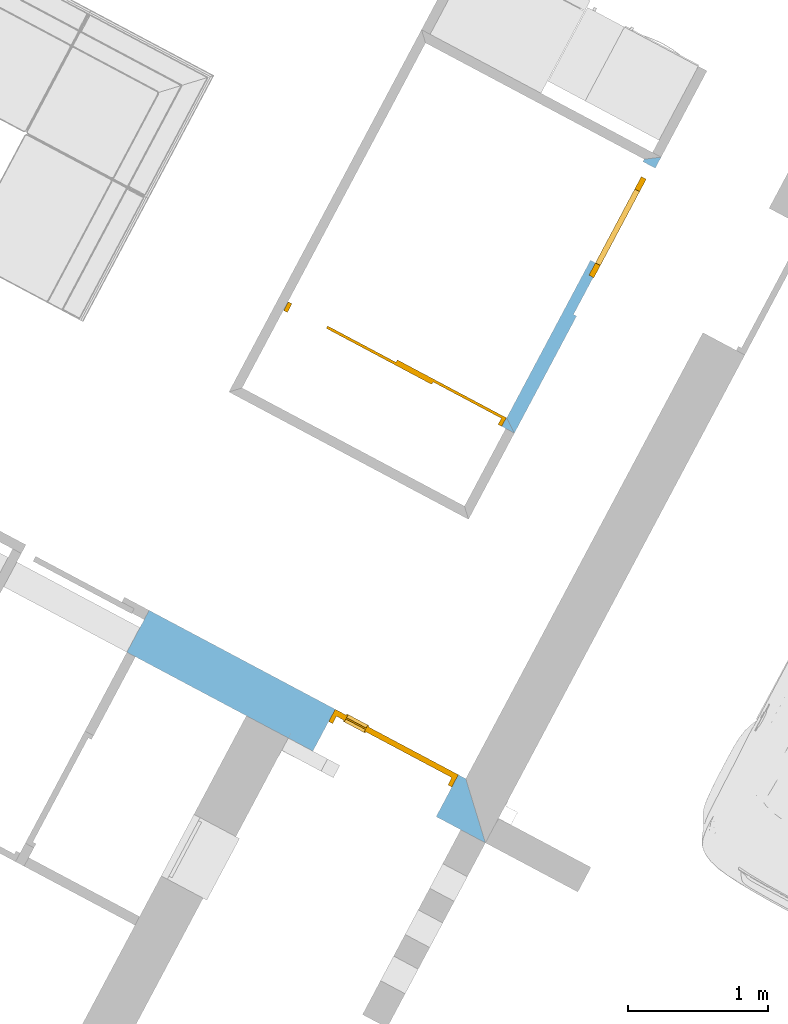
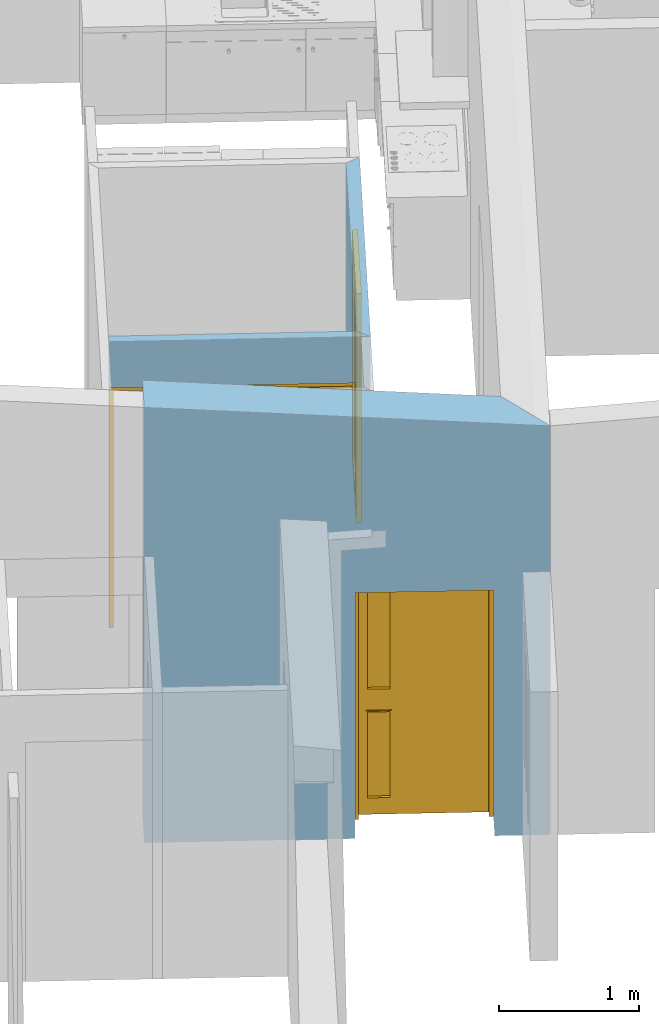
# One storey, part 9 of 27: 3 doors, 3 openings, plus 3 elements that do not belong to this part.
"""IFC2X3 building model written with IfcOpenShell, lengths in metres."""

from ifc_helpers import new_model, entity, si_unit, converted_unit, derived_unit, money_unit, direction, frame, origin_with_axes, origin_2d_with_axis, place, context, subcontext, project, spatial, polyline, rectangle, outline, extrude, clip, bounded_halfspace, open_shell, faceted_brep, surface_model, material, layer, layer_set, layer_usage, type_object, element, fill, save


model = new_model("IFC2X3")

# Units and contexts
model_context = context("Model", 3, precision=1e-05, world=origin_with_axes(), true_north=direction((0.0, 1.0)))
body_context = subcontext(model_context, "Body", "Model", "MODEL_VIEW")
ifc_project = project(units=[si_unit("LENGTHUNIT", "METRE"), si_unit("AREAUNIT", "SQUARE_METRE"), si_unit("VOLUMEUNIT", "CUBIC_METRE"), converted_unit("PLANEANGLEUNIT", "DEGREE", entity("IfcPlaneAngleMeasure", 0.0174532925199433), si_unit("PLANEANGLEUNIT", "RADIAN"), dimensions=[0, 0, 0, 0, 0, 0, 0]), money_unit("CHF"), converted_unit("TIMEUNIT", "Year", entity("IfcTimeMeasure", 31557600.0), si_unit("TIMEUNIT", "SECOND"), dimensions=[0, 0, 1, 0, 0, 0, 0]), si_unit("MASSUNIT", "GRAM", prefix="KILO"), si_unit("THERMODYNAMICTEMPERATUREUNIT", "DEGREE_CELSIUS"), si_unit("LUMINOUSINTENSITYUNIT", "LUMEN"), si_unit("ENERGYUNIT", "JOULE", prefix="MEGA"), derived_unit("THERMALCONDUCTANCEUNIT", [(si_unit("POWERUNIT", "WATT"), 1), (si_unit("LENGTHUNIT", "METRE"), -1), (si_unit("THERMODYNAMICTEMPERATUREUNIT", "KELVIN"), -1)]), derived_unit("SPECIFICHEATCAPACITYUNIT", [(si_unit("ENERGYUNIT", "JOULE"), 1), (si_unit("MASSUNIT", "GRAM", prefix="KILO"), -1), (si_unit("THERMODYNAMICTEMPERATUREUNIT", "KELVIN"), -1)]), derived_unit("MASSDENSITYUNIT", [(si_unit("MASSUNIT", "GRAM", prefix="KILO"), 1), (si_unit("VOLUMEUNIT", "CUBIC_METRE"), -1)])], contexts=[model_context])

# Site, building, storey
site_placement = place(None, frame((0.0, 0.0, 0.0), z_axis=(0.0, 0.0, 1.0), x_axis=(-0.4694715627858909, -0.8829475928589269, 0.0)))
site = spatial("IfcSite", under=ifc_project, at=site_placement, Name="Site", CompositionType="ELEMENT")
building_placement = place(site_placement, origin_with_axes())
building = spatial("IfcBuilding", under=site, at=building_placement, Name="Bâtiment", CompositionType="ELEMENT")
storey_placement = place(building_placement, origin_with_axes())
storey = spatial("IfcBuildingStorey", under=building, at=storey_placement, Name="RDC", CompositionType="ELEMENT", Elevation=0.0)

# Wall, opening, door
ifc_material_1 = material(Name="Maçonnerie 290464332")
ifc_layer_1 = layer(ifc_material_1, 0.2, ventilated="UNKNOWN")
ifc_material_2 = material(Name="Isolation 272048125")
ifc_layer_2 = layer(ifc_material_2, 0.14, ventilated="UNKNOWN")
ifc_layer_set_1 = layer_set([ifc_layer_1, ifc_layer_2], Name="MUR EXT 34 0024849982")
ifc_layer_usage_1 = layer_usage(ifc_layer_set_1, "AXIS2", "POSITIVE", 0.0)
wall_type_1 = type_object("IfcWallType", Name="MUR EXT 34 0024849982 340", PredefinedType="NOTDEFINED")
wall_1_placement = place(storey_placement, frame((143.5295710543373, -831.60459910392, 0.0), z_axis=(0.0, 0.0, 1.0), x_axis=(0.0, 1.0, 0.0)))
wall_1 = element("IfcWallStandardCase", 1, at=wall_1_placement, inside=storey, type_object=wall_type_1, material=ifc_layer_usage_1, Name="Mur-390", context=body_context, shape_type="Clipping", body=[
    clip(extrude(outline(polyline([(0.0, 0.0), (2.910000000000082, 0.0), (2.57000000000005, 0.3400000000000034), (0.0, 0.3400000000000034), (0.0, 0.0)])), origin_with_axes(), (0.0, 0.0, 1.0), 5.0), bounded_halfspace(frame((0.3024483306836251, 0.0, 3.780604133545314), z_axis=(-0.07974522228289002, 0.0, -0.9968152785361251), x_axis=(0.0, 1.0, 0.0)), True, origin_with_axes(), polyline([(-6.690009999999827, -0.01), (2.910000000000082, -0.01), (2.910000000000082, 0.3500000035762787), (-6.690009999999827, 0.3500000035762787), (-6.690009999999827, -0.01)]))),
])
opening_1_placement = place(wall_1_placement, frame((2.009999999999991, 0.0, 0.0), z_axis=(0.0, 0.0, 1.0), x_axis=(1.0, 0.0, 0.0)))
opening_1 = element("IfcOpeningElement", 2, at=opening_1_placement, cuts=wall_1, Name="porte 75", context=body_context, shape_type="SweptSolid", body=[
    extrude(rectangle(XDim=1.0, YDim=2.15, at=origin_2d_with_axis()), frame((0.0, -0.3400000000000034, 1.075), z_axis=(0.0, 1.0, 0.0), x_axis=(1.0, 0.0, 0.0)), (0.0, 0.0, 1.0), 1.02),
])
door_style_1 = type_object("IfcDoorStyle", Name="P_métallique 10", ConstructionType="NOTDEFINED", OperationType="SINGLE_SWING_RIGHT", ParameterTakesPrecedence=False, Sizeable=False)
door_1_placement = place(opening_1_placement, frame((-0.5, 0.0, 0.0), z_axis=(0.0, 0.0, 1.0), x_axis=(1.0, 0.0, 0.0)))
door_1 = element("IfcDoor", 3, at=door_1_placement, inside=storey, type_object=door_style_1, Name="porte 75", OverallHeight=2.15, OverallWidth=1.0, context=body_context, shape_type="Brep", body=[
    faceted_brep([(0.03200000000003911, 0.3000000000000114, 0.0), (0.03200000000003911, 0.3000000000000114, 2.118), (0.03200000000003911, 0.2400000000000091, 2.118), (0.03200000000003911, 0.2400000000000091, 0.0), (0.01999999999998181, 0.3000000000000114, 2.118), (0.01999999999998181, 0.3000000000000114, 0.0), (0.01999999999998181, 0.3400000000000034, 2.118), (0.0, 0.3400000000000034, 2.118), (0.0, 0.2400000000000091, 2.118), (0.0, 0.2400000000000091, 0.0), (0.0, 0.3400000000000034, 0.0), (0.01999999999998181, 0.3400000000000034, 0.0)], [[[0, 1, 2, 3]], [[4, 1, 0, 5]], [[4, 6, 7, 8, 2, 1]], [[2, 8, 9, 3]], [[5, 0, 3, 9, 10, 11]], [[6, 4, 5, 11]], [[6, 11, 10, 7]], [[10, 9, 8, 7]]]),
    faceted_brep([(0.9800000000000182, 0.3000000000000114, 2.118), (0.9679999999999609, 0.3000000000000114, 2.118), (0.9679999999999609, 0.2400000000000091, 2.118), (1.0, 0.2400000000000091, 2.118), (1.0, 0.3400000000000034, 2.118), (0.9800000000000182, 0.3400000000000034, 2.118), (0.9800000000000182, 0.3000000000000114, 0.0), (0.9679999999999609, 0.3000000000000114, 0.0), (0.9679999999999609, 0.2400000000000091, 0.0), (1.0, 0.2400000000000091, 0.0), (1.0, 0.3400000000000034, 0.0), (0.9800000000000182, 0.3400000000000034, 0.0)], [[[0, 1, 2, 3, 4, 5]], [[1, 0, 6, 7]], [[1, 7, 8, 2]], [[3, 2, 8, 9]], [[4, 3, 9, 10]], [[11, 5, 4, 10]], [[0, 5, 11, 6]], [[6, 11, 10, 9, 8, 7]]]),
    faceted_brep([(0.01999999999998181, 0.3400000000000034, 2.13), (0.01999999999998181, 0.3400000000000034, 2.118), (0.0, 0.3400000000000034, 2.118), (0.0, 0.3400000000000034, 2.15), (1.0, 0.3400000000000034, 2.15), (1.0, 0.3400000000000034, 2.118), (0.9800000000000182, 0.3400000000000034, 2.118), (0.9800000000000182, 0.3400000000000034, 2.13), (0.01999999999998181, 0.3000000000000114, 2.13), (0.01999999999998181, 0.3000000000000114, 2.118), (0.03200000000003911, 0.3000000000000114, 2.118), (0.03200000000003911, 0.2400000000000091, 2.118), (0.0, 0.2400000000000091, 2.118), (0.0, 0.2400000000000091, 2.15), (1.0, 0.2400000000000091, 2.15), (1.0, 0.2400000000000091, 2.118), (0.9800000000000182, 0.3000000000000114, 2.118), (0.9679999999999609, 0.2400000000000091, 2.118), (0.9679999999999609, 0.3000000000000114, 2.118), (0.9800000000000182, 0.3000000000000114, 2.13)], [[[0, 1, 2, 3, 4, 5, 6, 7]], [[1, 0, 8, 9]], [[9, 10, 11, 12, 2, 1]], [[2, 12, 13, 3]], [[3, 13, 14, 4]], [[4, 14, 15, 5]], [[16, 6, 5, 15, 17, 18]], [[7, 6, 16, 19]], [[0, 7, 19, 8]], [[16, 18, 10, 9, 8, 19]], [[10, 18, 17, 11]], [[17, 15, 14, 13, 12, 11]]]),
    faceted_brep([(0.01999999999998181, 0.3400000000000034, 0.0), (0.9800000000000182, 0.3400000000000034, 0.0), (0.9800000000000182, 0.3000000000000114, 0.0), (0.01999999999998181, 0.3000000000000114, 0.0), (0.01999999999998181, 0.3400000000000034, 2.13), (0.9800000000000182, 0.3400000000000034, 2.13), (0.1000000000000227, 0.3400000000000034, 1.1), (0.2599999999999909, 0.3400000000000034, 1.1), (0.2599999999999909, 0.3400000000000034, 2.02), (0.1000000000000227, 0.3400000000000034, 2.02), (0.1000000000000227, 0.3400000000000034, 0.15), (0.2599999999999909, 0.3400000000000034, 0.15), (0.2599999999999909, 0.3400000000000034, 0.9), (0.1000000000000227, 0.3400000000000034, 0.9), (0.9800000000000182, 0.3000000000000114, 2.13), (0.01999999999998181, 0.3000000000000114, 2.13), (0.1000000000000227, 0.3000000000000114, 1.1), (0.1000000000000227, 0.3000000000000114, 2.02), (0.2599999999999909, 0.3000000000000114, 2.02), (0.2599999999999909, 0.3000000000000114, 1.1), (0.1000000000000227, 0.3000000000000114, 0.15), (0.1000000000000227, 0.3000000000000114, 0.9), (0.2599999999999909, 0.3000000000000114, 0.9), (0.2599999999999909, 0.3000000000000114, 0.15)], [[[0, 1, 2, 3]], [[0, 4, 5, 1], [6, 7, 8, 9], [10, 11, 12, 13]], [[1, 5, 14, 2]], [[3, 2, 14, 15], [16, 17, 18, 19], [20, 21, 22, 23]], [[4, 0, 3, 15]], [[5, 4, 15, 14]], [[7, 6, 16, 19]], [[8, 7, 19, 18]], [[9, 8, 18, 17]], [[6, 9, 17, 16]], [[11, 10, 20, 23]], [[12, 11, 23, 22]], [[13, 12, 22, 21]], [[10, 13, 21, 20]]]),
    faceted_brep([(0.1000000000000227, 0.3250000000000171, 1.1), (0.2599999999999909, 0.3250000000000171, 1.1), (0.2599999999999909, 0.313999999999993, 1.1), (0.1000000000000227, 0.313999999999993, 1.1), (0.1000000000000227, 0.3250000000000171, 2.02), (0.2599999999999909, 0.3250000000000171, 2.02), (0.2599999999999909, 0.313999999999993, 2.02), (0.1000000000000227, 0.313999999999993, 2.02)], [[[0, 1, 2, 3]], [[0, 4, 5, 1]], [[1, 5, 6, 2]], [[3, 2, 6, 7]], [[4, 0, 3, 7]], [[5, 4, 7, 6]]]),
    faceted_brep([(0.1000000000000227, 0.3250000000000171, 0.15), (0.2599999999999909, 0.3250000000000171, 0.15), (0.2599999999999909, 0.313999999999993, 0.15), (0.1000000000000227, 0.313999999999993, 0.15), (0.1000000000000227, 0.3250000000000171, 0.9), (0.2599999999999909, 0.3250000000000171, 0.9), (0.2599999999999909, 0.313999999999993, 0.9), (0.1000000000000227, 0.313999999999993, 0.9)], [[[0, 1, 2, 3]], [[0, 4, 5, 1]], [[1, 5, 6, 2]], [[3, 2, 6, 7]], [[4, 0, 3, 7]], [[5, 4, 7, 6]]]),
    faceted_brep([(0.09000000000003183, 0.3499999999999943, 1.09), (0.2699999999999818, 0.3499999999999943, 1.09), (0.2699999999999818, 0.3400000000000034, 1.09), (0.09000000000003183, 0.3400000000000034, 1.09), (0.09000000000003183, 0.3499999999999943, 2.03), (0.2699999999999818, 0.3499999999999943, 2.03), (0.1000000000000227, 0.3499999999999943, 1.1), (0.2599999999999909, 0.3499999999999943, 1.1), (0.2599999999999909, 0.3499999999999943, 2.02), (0.1000000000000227, 0.3499999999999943, 2.02), (0.2699999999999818, 0.3400000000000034, 2.03), (0.09000000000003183, 0.3400000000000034, 2.03), (0.1000000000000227, 0.3400000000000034, 1.1), (0.1000000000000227, 0.3400000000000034, 2.02), (0.2599999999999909, 0.3400000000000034, 2.02), (0.2599999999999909, 0.3400000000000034, 1.1)], [[[0, 1, 2, 3]], [[0, 4, 5, 1], [6, 7, 8, 9]], [[1, 5, 10, 2]], [[3, 2, 10, 11], [12, 13, 14, 15]], [[4, 0, 3, 11]], [[5, 4, 11, 10]], [[7, 6, 12, 15]], [[8, 7, 15, 14]], [[9, 8, 14, 13]], [[6, 9, 13, 12]]]),
    faceted_brep([(0.09000000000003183, 0.3499999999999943, 0.14), (0.2699999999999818, 0.3499999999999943, 0.14), (0.2699999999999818, 0.3400000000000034, 0.14), (0.09000000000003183, 0.3400000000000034, 0.14), (0.09000000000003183, 0.3499999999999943, 0.91), (0.2699999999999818, 0.3499999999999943, 0.91), (0.1000000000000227, 0.3499999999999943, 0.15), (0.2599999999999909, 0.3499999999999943, 0.15), (0.2599999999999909, 0.3499999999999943, 0.9), (0.1000000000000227, 0.3499999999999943, 0.9), (0.2699999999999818, 0.3400000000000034, 0.91), (0.09000000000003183, 0.3400000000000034, 0.91), (0.1000000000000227, 0.3400000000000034, 0.15), (0.1000000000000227, 0.3400000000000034, 0.9), (0.2599999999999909, 0.3400000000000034, 0.9), (0.2599999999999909, 0.3400000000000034, 0.15)], [[[0, 1, 2, 3]], [[0, 4, 5, 1], [6, 7, 8, 9]], [[1, 5, 10, 2]], [[3, 2, 10, 11], [12, 13, 14, 15]], [[4, 0, 3, 11]], [[5, 4, 11, 10]], [[7, 6, 12, 15]], [[8, 7, 15, 14]], [[9, 8, 14, 13]], [[6, 9, 13, 12]]]),
    faceted_brep([(0.09000000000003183, 0.3000000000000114, 1.09), (0.2699999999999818, 0.3000000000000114, 1.09), (0.2699999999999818, 0.289999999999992, 1.09), (0.09000000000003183, 0.289999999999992, 1.09), (0.09000000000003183, 0.3000000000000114, 2.03), (0.2699999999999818, 0.3000000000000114, 2.03), (0.1000000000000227, 0.3000000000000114, 1.1), (0.2599999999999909, 0.3000000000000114, 1.1), (0.2599999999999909, 0.3000000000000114, 2.02), (0.1000000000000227, 0.3000000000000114, 2.02), (0.2699999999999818, 0.289999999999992, 2.03), (0.09000000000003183, 0.289999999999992, 2.03), (0.1000000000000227, 0.289999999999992, 1.1), (0.1000000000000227, 0.289999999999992, 2.02), (0.2599999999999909, 0.289999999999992, 2.02), (0.2599999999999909, 0.289999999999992, 1.1)], [[[0, 1, 2, 3]], [[0, 4, 5, 1], [6, 7, 8, 9]], [[1, 5, 10, 2]], [[3, 2, 10, 11], [12, 13, 14, 15]], [[4, 0, 3, 11]], [[5, 4, 11, 10]], [[7, 6, 12, 15]], [[8, 7, 15, 14]], [[9, 8, 14, 13]], [[6, 9, 13, 12]]]),
    faceted_brep([(0.09000000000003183, 0.3000000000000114, 0.14), (0.2699999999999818, 0.3000000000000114, 0.14), (0.2699999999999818, 0.289999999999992, 0.14), (0.09000000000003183, 0.289999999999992, 0.14), (0.09000000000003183, 0.3000000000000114, 0.91), (0.2699999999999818, 0.3000000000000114, 0.91), (0.1000000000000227, 0.3000000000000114, 0.15), (0.2599999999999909, 0.3000000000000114, 0.15), (0.2599999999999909, 0.3000000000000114, 0.9), (0.1000000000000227, 0.3000000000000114, 0.9), (0.2699999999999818, 0.289999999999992, 0.91), (0.09000000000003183, 0.289999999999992, 0.91), (0.1000000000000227, 0.289999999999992, 0.15), (0.1000000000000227, 0.289999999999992, 0.9), (0.2599999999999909, 0.289999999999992, 0.9), (0.2599999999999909, 0.289999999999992, 0.15)], [[[0, 1, 2, 3]], [[0, 4, 5, 1], [6, 7, 8, 9]], [[1, 5, 10, 2]], [[3, 2, 10, 11], [12, 13, 14, 15]], [[4, 0, 3, 11]], [[5, 4, 11, 10]], [[7, 6, 12, 15]], [[8, 7, 15, 14]], [[9, 8, 14, 13]], [[6, 9, 13, 12]]]),
])
fill(opening_1, door_1)

ifc_material_3 = material(Name="Isolation 269295175")
ifc_layer_3 = layer(ifc_material_3, 0.1, ventilated="UNKNOWN")
ifc_layer_set_2 = layer_set([ifc_layer_3], Name="CLOISON 10")
ifc_layer_usage_2 = layer_usage(ifc_layer_set_2, "AXIS2", "POSITIVE", 0.0)
wall_type_2 = type_object("IfcWallType", Name="CLOISON 10 100", PredefinedType="NOTDEFINED")
wall_2_placement = place(storey_placement, frame((140.8395710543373, -829.8895991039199, 0.0), z_axis=(0.0, 0.0, 1.0), x_axis=(-1.0, 0.0, 0.0)))
wall_2 = element("IfcWallStandardCase", 4, at=wall_2_placement, inside=storey, type_object=wall_type_2, material=ifc_layer_usage_2, Name="Mur-396", context=body_context, shape_type="SweptSolid", body=[
    extrude(outline(polyline([(0.0, 0.0), (2.239999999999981, 0.0), (2.169999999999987, 0.1000000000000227), (0.06999999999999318, 0.1000000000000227), (0.0, 0.0)])), origin_with_axes(), (0.0, 0.0, 1.0), 2.5),
])
opening_2_placement = place(wall_2_placement, frame((1.74990555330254, 0.0, 0.0), z_axis=(0.0, 0.0, 1.0), x_axis=(1.0, 0.0, 0.0)))
opening_2 = element("IfcOpeningElement", 5, at=opening_2_placement, cuts=wall_2, Name="porte 76", context=body_context, shape_type="SweptSolid", body=[
    extrude(rectangle(XDim=0.8000000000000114, YDim=2.0, at=origin_2d_with_axis()), frame((0.0, 0.02999999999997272, 0.9999999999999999), z_axis=(0.0, -1.0, 0.0), x_axis=(-1.0, 0.0, 0.0)), (0.0, 0.0, -1.0), 0.17),
    extrude(rectangle(XDim=0.3999999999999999, YDim=2.0, at=origin_2d_with_axis()), frame((-0.5999999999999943, -0.01999999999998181, 0.9999999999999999), z_axis=(0.0, 1.0, 0.0), x_axis=(-1.0, 0.0, 0.0)), (0.0, 0.0, 1.0), 0.045),
    extrude(rectangle(XDim=0.8000000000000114, YDim=2.0, at=origin_2d_with_axis()), frame((0.0, 0.02999999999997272, 0.9999999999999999), z_axis=(0.0, 1.0, 0.0), x_axis=(-1.0, 0.0, 0.0)), (0.0, 0.0, -1.0), 0.13),
])
door_style_2 = type_object("IfcDoorStyle", Name="P_coul dans mur 12", ConstructionType="NOTDEFINED", OperationType="SLIDING_TO_RIGHT", ParameterTakesPrecedence=False, Sizeable=False)
door_2_placement = place(opening_2_placement, frame((0.4000000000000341, 0.0, 0.0), z_axis=(0.0, 0.0, 1.0), x_axis=(-1.0, 0.0, 0.0)))
door_2 = element("IfcDoor", 6, at=door_2_placement, inside=storey, type_object=door_style_2, Name="porte 76", OverallHeight=2.0, OverallWidth=0.8, context=body_context, shape_type="SurfaceModel", body=[
    faceted_brep([(0.9000000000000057, -0.01999999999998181, 0.1), (0.9000000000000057, -0.06000000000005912, 0.1), (0.8000000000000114, -0.06000000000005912, 0.1), (0.8000000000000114, -0.01999999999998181, 0.1), (0.9000000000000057, -0.01999999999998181, 1.9), (0.9000000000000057, -0.06000000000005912, 1.9), (0.8000000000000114, -0.06000000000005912, 1.9), (0.8000000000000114, -0.01999999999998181, 1.9)], [[[0, 1, 2, 3]], [[4, 5, 1, 0]], [[1, 5, 6, 2]], [[3, 2, 6, 7]], [[0, 3, 7, 4]], [[7, 6, 5, 4]]]),
    faceted_brep([(0.09999999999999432, -0.01999999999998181, 0.1), (0.09999999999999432, -0.06000000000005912, 0.1), (0.09999999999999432, -0.06000000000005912, 1.9), (0.09999999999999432, -0.01999999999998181, 1.9), (0.2000000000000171, -0.01999999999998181, 0.1), (0.2000000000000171, -0.06000000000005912, 0.1), (0.2000000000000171, -0.06000000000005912, 1.9), (0.2000000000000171, -0.01999999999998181, 1.9)], [[[0, 1, 2, 3]], [[4, 5, 1, 0]], [[1, 5, 6, 2]], [[3, 2, 6, 7]], [[0, 3, 7, 4]], [[7, 6, 5, 4]]]),
    faceted_brep([(0.9000000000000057, -0.01999999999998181, 0.0), (0.9000000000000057, -0.06000000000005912, 0.0), (0.09999999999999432, -0.06000000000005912, 0.0), (0.09999999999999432, -0.01999999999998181, 0.0), (0.9000000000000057, -0.01999999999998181, 0.1), (0.9000000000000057, -0.06000000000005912, 0.1), (0.8000000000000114, -0.06000000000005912, 0.1), (0.2000000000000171, -0.06000000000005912, 0.1), (0.09999999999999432, -0.06000000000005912, 0.1), (0.09999999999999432, -0.01999999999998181, 0.1), (0.2000000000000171, -0.01999999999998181, 0.1), (0.8000000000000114, -0.01999999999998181, 0.1)], [[[0, 1, 2, 3]], [[4, 5, 1, 0]], [[1, 5, 6, 7, 8, 2]], [[3, 2, 8, 9]], [[0, 3, 9, 10, 11, 4]], [[11, 6, 5, 4]], [[10, 7, 6, 11]], [[9, 8, 7, 10]]]),
    faceted_brep([(0.9000000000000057, -0.01999999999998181, 2.0), (0.9000000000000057, -0.06000000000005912, 2.0), (0.9000000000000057, -0.06000000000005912, 1.9), (0.9000000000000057, -0.01999999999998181, 1.9), (0.09999999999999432, -0.01999999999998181, 2.0), (0.09999999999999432, -0.06000000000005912, 2.0), (0.09999999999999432, -0.06000000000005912, 1.9), (0.2000000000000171, -0.06000000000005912, 1.9), (0.8000000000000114, -0.06000000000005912, 1.9), (0.8000000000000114, -0.01999999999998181, 1.9), (0.2000000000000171, -0.01999999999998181, 1.9), (0.09999999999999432, -0.01999999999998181, 1.9)], [[[0, 1, 2, 3]], [[4, 5, 1, 0]], [[1, 5, 6, 7, 8, 2]], [[3, 2, 8, 9]], [[0, 3, 9, 10, 11, 4]], [[11, 6, 5, 4]], [[10, 7, 6, 11]], [[9, 8, 7, 10]]]),
    surface_model("IfcShellBasedSurfaceModel", [(0.8000000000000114, -0.03399999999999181, 0.1), (0.2000000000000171, -0.03399999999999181, 0.1), (0.2000000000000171, -0.03399999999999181, 1.9), (0.8000000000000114, -0.03399999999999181, 1.9)], [open_shell([[[0, 1, 2, 3]]])]),
    surface_model("IfcShellBasedSurfaceModel", [(0.8000000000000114, -0.04600000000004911, 0.1), (0.8000000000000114, -0.04600000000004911, 1.9), (0.2000000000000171, -0.04600000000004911, 1.9), (0.2000000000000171, -0.04600000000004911, 0.1)], [open_shell([[[0, 1, 2, 3]]])]),
])
fill(opening_2, door_2)

ifc_layer_4 = layer(ifc_material_3, 0.07, ventilated="UNKNOWN")
ifc_layer_set_3 = layer_set([ifc_layer_4], Name="CLOISON 7 0024849982")
ifc_layer_usage_3 = layer_usage(ifc_layer_set_3, "AXIS2", "POSITIVE", 0.0)
wall_type_3 = type_object("IfcWallType", Name="CLOISON 7 0024849982 70", PredefinedType="NOTDEFINED")
wall_3_placement = place(storey_placement, frame((140.8395710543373, -831.8345991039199, 0.0), z_axis=(0.0, 0.0, 1.0), x_axis=(0.0, 1.0, 0.0)))
wall_3 = element("IfcWallStandardCase", 7, at=wall_3_placement, inside=storey, type_object=wall_type_3, material=ifc_layer_usage_3, Name="Mur-396", context=body_context, shape_type="SweptSolid", body=[
    extrude(outline(polyline([(0.07000000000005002, 0.0), (1.94500000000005, 0.0), (1.845000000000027, 0.06999999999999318), (0.07000000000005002, 0.06999999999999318), (0.07000000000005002, 0.0)])), origin_with_axes(), (0.0, 0.0, 1.0), 2.5),
])
opening_3_placement = place(wall_3_placement, frame((0.9574999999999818, 0.0, 0.0), z_axis=(0.0, 0.0, 1.0), x_axis=(1.0, 0.0, 0.0)))
opening_3 = element("IfcOpeningElement", 8, at=opening_3_placement, cuts=wall_3, Name="porte 77", context=body_context, shape_type="SweptSolid", body=[
    extrude(rectangle(XDim=1.769999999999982, YDim=2.1, at=origin_2d_with_axis()), frame((0.0, 0.06999999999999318, 1.05), z_axis=(0.0, 1.0, 0.0), x_axis=(1.0, 0.0, 0.0)), (0.0, 0.0, -1.0), 0.21),
])
door_style_3 = type_object("IfcDoorStyle", Name="P_double coul 1 10", ConstructionType="NOTDEFINED", OperationType="SLIDING_TO_LEFT", ParameterTakesPrecedence=False, Sizeable=False)
door_3_placement = place(opening_3_placement, frame((0.8849999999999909, 0.0, 0.0), z_axis=(0.0, 0.0, 1.0), x_axis=(-1.0, 0.0, 0.0)))
door_3 = element("IfcDoor", 9, at=door_3_placement, inside=storey, type_object=door_style_3, Name="porte 77", OverallHeight=2.1, OverallWidth=1.77, context=body_context, shape_type="Brep", body=[
    faceted_brep([(1.740000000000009, -0.06999999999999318, 0.0), (1.740000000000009, -0.06999999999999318, 2.07), (1.740000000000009, 0.0, 2.07), (1.740000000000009, 0.0, 0.0), (1.769999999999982, -0.06999999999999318, 0.0), (1.769999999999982, -0.06999999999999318, 2.07), (1.769999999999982, 0.0, 2.07), (1.769999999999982, 0.0, 0.0)], [[[0, 1, 2, 3]], [[0, 4, 5, 1]], [[1, 5, 6, 2]], [[3, 2, 6, 7]], [[4, 0, 3, 7]], [[5, 4, 7, 6]]]),
    faceted_brep([(0.0, -0.06999999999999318, 0.0), (0.0, -0.06999999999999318, 2.07), (0.0, 0.0, 2.07), (0.0, 0.0, 0.0), (0.02999999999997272, -0.06999999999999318, 0.0), (0.02999999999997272, -0.06999999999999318, 2.07), (0.02999999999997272, 0.0, 2.07), (0.02999999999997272, 0.0, 0.0)], [[[0, 1, 2, 3]], [[0, 4, 5, 1]], [[1, 5, 6, 2]], [[3, 2, 6, 7]], [[4, 0, 3, 7]], [[5, 4, 7, 6]]]),
    faceted_brep([(1.769999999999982, -0.06999999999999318, 2.1), (1.769999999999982, -0.06999999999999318, 2.07), (1.769999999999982, 0.0, 2.07), (1.769999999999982, 0.0, 2.1), (0.0, -0.06999999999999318, 2.1), (0.0, -0.06999999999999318, 2.07), (0.02999999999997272, -0.06999999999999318, 2.07), (1.740000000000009, -0.06999999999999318, 2.07), (1.740000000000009, 0.0, 2.07), (0.02999999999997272, 0.0, 2.07), (0.0, 0.0, 2.07), (0.0, 0.0, 2.1)], [[[0, 1, 2, 3]], [[0, 4, 5, 6, 7, 1]], [[1, 7, 8, 2]], [[3, 2, 8, 9, 10, 11]], [[4, 0, 3, 11]], [[5, 4, 11, 10]], [[6, 5, 10, 9]], [[7, 6, 9, 8]]]),
    faceted_brep([(0.02999999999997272, -0.06999999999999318, 0.0), (0.02999999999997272, -0.05000000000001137, 0.0), (0.8849999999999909, -0.05000000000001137, 0.0), (0.8849999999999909, -0.06999999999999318, 0.0), (0.02999999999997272, -0.06999999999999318, 2.07), (0.02999999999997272, -0.05000000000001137, 2.07), (0.8849999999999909, -0.05000000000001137, 2.07), (0.8849999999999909, -0.06999999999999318, 2.07)], [[[0, 1, 2, 3]], [[4, 5, 1, 0]], [[1, 5, 6, 2]], [[3, 2, 6, 7]], [[0, 3, 7, 4]], [[7, 6, 5, 4]]]),
    faceted_brep([(0.5850000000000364, -0.05000000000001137, 0.0), (0.5850000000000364, -0.03000000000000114, 0.0), (1.439999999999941, -0.03000000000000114, 0.0), (1.439999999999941, -0.05000000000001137, 0.0), (0.5850000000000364, -0.05000000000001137, 2.07), (0.5850000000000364, -0.03000000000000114, 2.07), (1.439999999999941, -0.03000000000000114, 2.07), (1.439999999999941, -0.05000000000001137, 2.07)], [[[0, 1, 2, 3]], [[4, 5, 1, 0]], [[1, 5, 6, 2]], [[3, 2, 6, 7]], [[0, 3, 7, 4]], [[7, 6, 5, 4]]]),
])
fill(opening_3, door_3)

save(model, "model.ifc")
